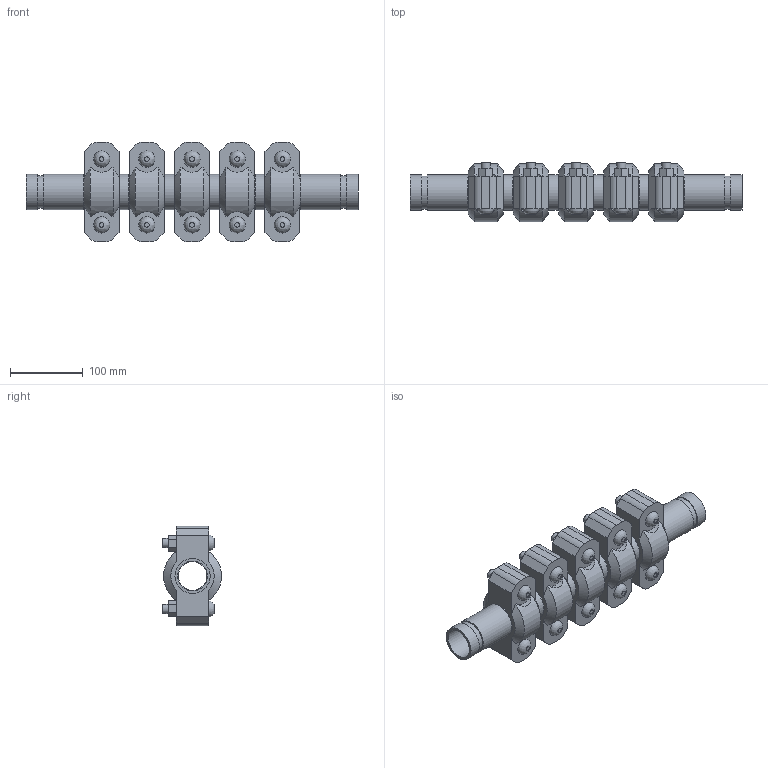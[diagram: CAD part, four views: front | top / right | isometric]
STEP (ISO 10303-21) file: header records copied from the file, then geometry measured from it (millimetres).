
FILE_DESCRIPTION(/* description */ ('VIC EXPANSION JOINT 5 COUPLINGS EXPANDED STYLE 155 (OGS)','CAx-IF Rec.Pracs.---Representation and Presentation of Product Manufacturing Information (PMI)---4.0---2014-10-13'),/* implementation_level */ '2;1');
FILE_NAME(/* name */ 'C:\Users\kkamble\AppData\Roaming\Autodesk\ApplicationPlugins\Victaulic.Temp\A557\Victaulic_IPS_Expansion Joint_Expanded_5 Couplings_Style 155 (OGS)_1.5 (40).stp',/* time_stamp */ '2021-06-27T00:02:13+02:00',/* author */ ('kkamble'),/* organization */ ('Victaulic'),/* preprocessor_version */ 'ST-DEVELOPER v17.2',/* originating_system */ 'Autodesk Inventor 2019',/* authorisation */ '');
FILE_SCHEMA (('AP242_MANAGED_MODEL_BASED_3D_ENGINEERING_MIM_LF { 1 0 10303 442 1 1 4 }'));
Length unit declared in the file: inch
Products named in the file (4): 155-01.5; Nipple-01.5; Nipple-01.5_1; 077-01.5
Assembly tree (11 placements, depth 2):
  155-01.5
    Nipple-01.5  x2
    Nipple-01.5_1  x4
    077-01.5  x5
Bounding box: 455.42 x 81.03 x 136.65 mm (x, y, z)
Volume: 1529452.5 mm3; surface area: 365683.2 mm2
Topology: 11 solids, 21 shells, 377 faces, 905 edges, 634 vertices
Faces by surface type: plane 216, cylinder 131, cone 20, bspline 10
Full cylindrical faces by diameter (mm): 12.7 x20, 14.605 x10, 39.37 x5, 40.894 x6, 45.085 x12, 48.26 x28
Entity records: 3017 total; most frequent: CARTESIAN_POINT 603, DIRECTION 485, ORIENTED_EDGE 410, EDGE_CURVE 205, AXIS2_PLACEMENT_3D 194, VERTEX_POINT 146, EDGE_LOOP 111, LINE 97
